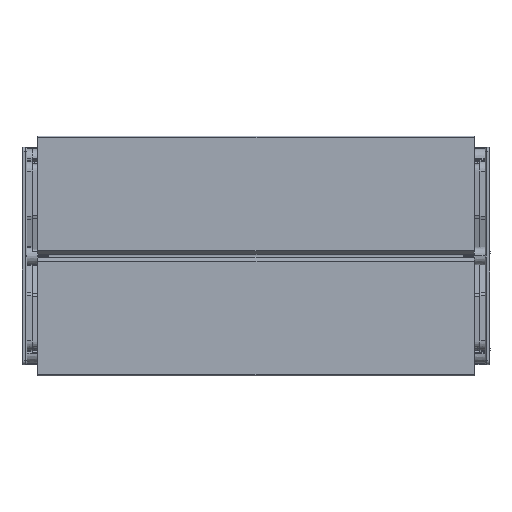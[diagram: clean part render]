
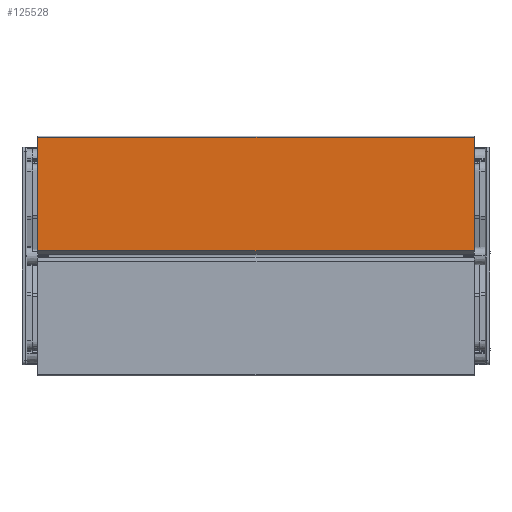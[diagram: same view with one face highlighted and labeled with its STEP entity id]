
A CAD part, top view. The second image highlights one B-rep face of the part: STEP entity #125528.
In plain terms, the highlighted planar face has unit normal (0, 0, 1) as drawn and (0, -1, 0) by its records, which use the part's own axes.
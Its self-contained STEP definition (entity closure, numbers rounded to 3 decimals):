
#16348 = EDGE_LOOP ( 'NONE', ( #138681, #221650, #229013, #229549 ) ) ;
#30707 = DIRECTION ( 'NONE',  ( 0., 1., 0. ) ) ;
#38516 = EDGE_CURVE ( 'NONE', #195240, #96303, #51380, .T. ) ;
#41300 = DIRECTION ( 'NONE',  ( 0., 0., -1. ) ) ;
#42222 = EDGE_CURVE ( 'NONE', #80355, #110634, #47519, .T. ) ;
#43247 = DIRECTION ( 'NONE',  ( -1., 0., 0. ) ) ;
#47519 = LINE ( 'NONE', #134152, #107505 ) ;
#51380 = LINE ( 'NONE', #107085, #125494 ) ;
#51475 = DIRECTION ( 'NONE',  ( 0., 0., -1. ) ) ;
#76474 = CARTESIAN_POINT ( 'NONE',  ( 0., -10.193, 56.265 ) ) ;
#77385 = VECTOR ( 'NONE', #51475, 1000. ) ;
#80355 = VERTEX_POINT ( 'NONE', #154937 ) ;
#81163 = CARTESIAN_POINT ( 'NONE',  ( 0., -10.193, 62.5 ) ) ;
#86594 = DIRECTION ( 'NONE',  ( 0., 0., 1. ) ) ;
#87386 = PLANE ( 'NONE',  #182471 ) ;
#91897 = DIRECTION ( 'NONE',  ( -1., 0., 0. ) ) ;
#96303 = VERTEX_POINT ( 'NONE', #81163 ) ;
#100063 = LINE ( 'NONE', #217976, #77385 ) ;
#106805 = CARTESIAN_POINT ( 'NONE',  ( 0., -10.193, 2.887 ) ) ;
#107085 = CARTESIAN_POINT ( 'NONE',  ( 229.6, -10.193, 62.5 ) ) ;
#107505 = VECTOR ( 'NONE', #43247, 1000. ) ;
#110634 = VERTEX_POINT ( 'NONE', #106805 ) ;
#125494 = VECTOR ( 'NONE', #91897, 1000. ) ;
#125528 = ADVANCED_FACE ( 'NONE', ( #154876 ), #87386, .F. ) ;
#134152 = CARTESIAN_POINT ( 'NONE',  ( 229.6, -10.193, 2.887 ) ) ;
#138681 = ORIENTED_EDGE ( 'NONE', *, *, #42222, .F. ) ;
#153530 = LINE ( 'NONE', #76474, #167890 ) ;
#154876 = FACE_OUTER_BOUND ( 'NONE', #16348, .T. ) ;
#154937 = CARTESIAN_POINT ( 'NONE',  ( 229.6, -10.193, 2.887 ) ) ;
#167890 = VECTOR ( 'NONE', #41300, 1000. ) ;
#169516 = CARTESIAN_POINT ( 'NONE',  ( 229.6, -10.193, 62.5 ) ) ;
#182471 = AXIS2_PLACEMENT_3D ( 'NONE', #233082, #30707, #86594 ) ;
#195240 = VERTEX_POINT ( 'NONE', #169516 ) ;
#203046 = EDGE_CURVE ( 'NONE', #96303, #110634, #153530, .T. ) ;
#217976 = CARTESIAN_POINT ( 'NONE',  ( 229.6, -10.193, 56.265 ) ) ;
#221650 = ORIENTED_EDGE ( 'NONE', *, *, #233468, .F. ) ;
#229013 = ORIENTED_EDGE ( 'NONE', *, *, #38516, .T. ) ;
#229549 = ORIENTED_EDGE ( 'NONE', *, *, #203046, .T. ) ;
#233082 = CARTESIAN_POINT ( 'NONE',  ( 229.6, -10.193, 56.265 ) ) ;
#233468 = EDGE_CURVE ( 'NONE', #195240, #80355, #100063, .T. ) ;
